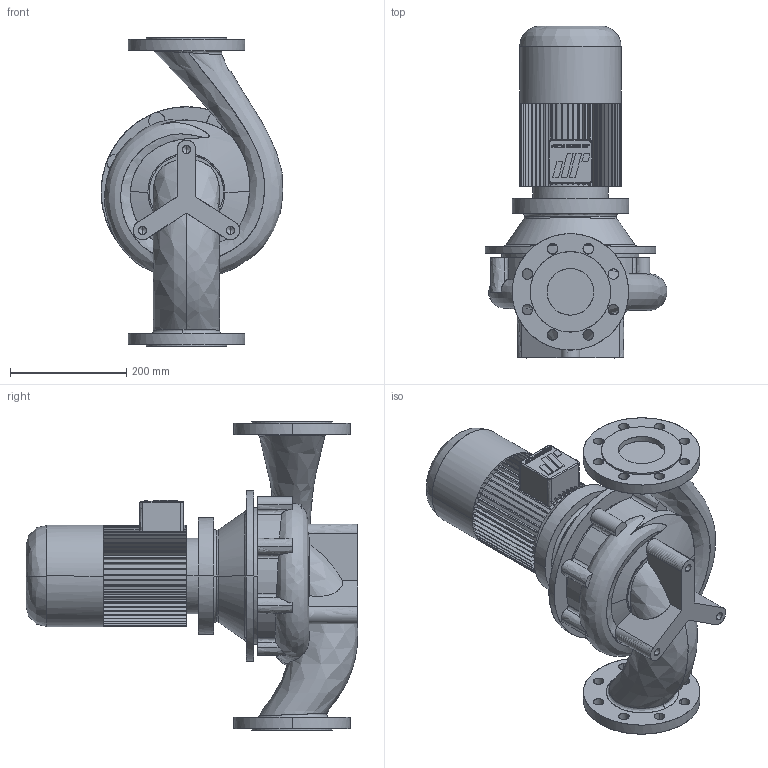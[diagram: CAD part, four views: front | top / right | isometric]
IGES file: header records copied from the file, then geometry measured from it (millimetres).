
Start section: CombiLine
Global section: file name: CLB_80-200_IEC90S_ND10.igs; native system:  By UGS Corp.; preprocessor: XPlus GENERIC/IGES 3.0; author: Stageplaats; organization: Johnson Pump Water B.V.; date: 20070717.084055; units: millimetre
Bounding box: 312.22 x 570 x 530 mm (x, y, z)
Surface area: 915951 mm2 (no closed solid volume)
Topology: 0 solids, 0 shells, 557 faces, 3394 edges, 3388 vertices
Faces by surface type: bspline 557
